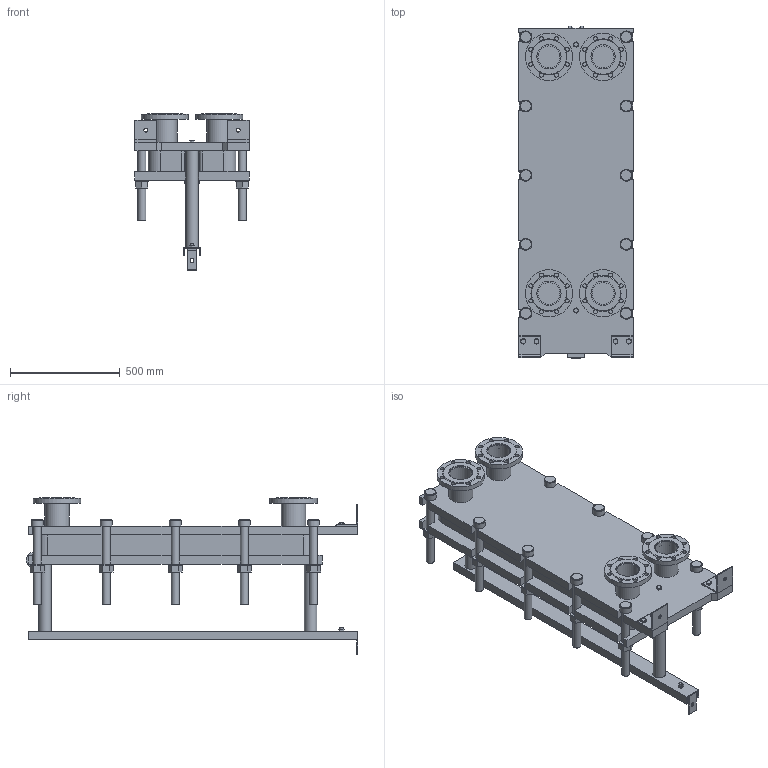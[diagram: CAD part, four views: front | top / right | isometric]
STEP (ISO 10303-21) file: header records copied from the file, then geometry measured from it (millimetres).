
FILE_DESCRIPTION(/* description */ (''),/* implementation_level */ '2;1');
FILE_NAME(/* name */ 'C:\Users\zhuro\Desktop\ENCO\TO\ЭН-04\ЭН-0,5-04-27-1.stp',/* time_stamp */ '2022-06-06T10:46:20+03:00',/* author */ ('zhuro'),/* organization */ (''),/* preprocessor_version */ 'ST-DEVELOPER v18.1',/* originating_system */ 'Autodesk Inventor 2022',/* authorisation */ '');
FILE_SCHEMA (('AUTOMOTIVE_DESIGN { 1 0 10303 214 3 1 1 }'));
Length unit declared in the file: millimetre
Products named in the file (1): ЭН-0,5-04-27-1
Bounding box: 520 x 1510 x 713.5 mm (x, y, z)
Volume: 113828420.2 mm3; surface area: 6749985 mm2
Topology: 45 solids, 45 shells, 668 faces, 1611 edges, 1048 vertices
Faces by surface type: plane 457, cylinder 166, cone 39, torus 6
Full cylindrical faces by diameter (mm): 8 x4, 10 x2, 16 x8, 18 x35, 36 x25, 40 x2, 42 x1, 45 x4, 54 x10, 57 x2, 60 x10, 68 x2, 100 x4, 110 x8, 215 x4
Entity records: 23607 total; most frequent: CARTESIAN_POINT 7348, DIRECTION 3371, ORIENTED_EDGE 3142, EDGE_CURVE 1571, AXIS2_PLACEMENT_3D 1199, VERTEX_POINT 1044, LINE 973, VECTOR 973
